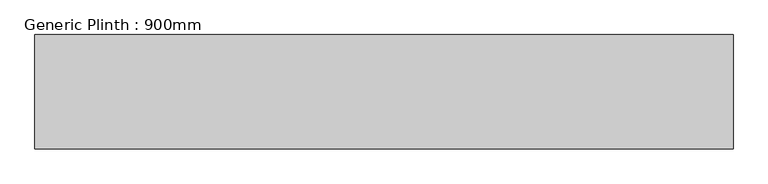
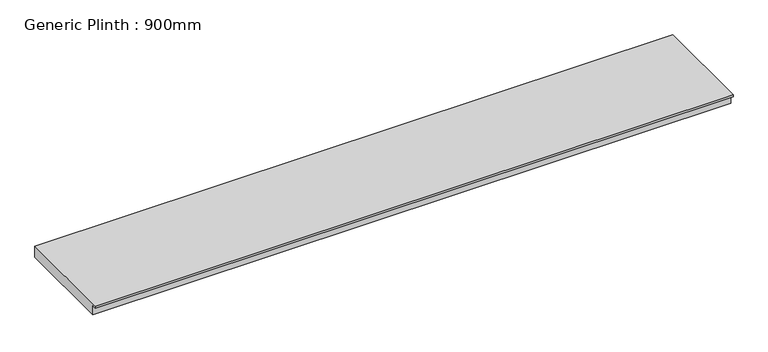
"""IFC4 building model written with IfcOpenShell, lengths in millimetres: furniture geometry, Generic Plinth : 900mm."""

from ifc_helpers import new_model, si_unit, frame, origin, place, context, project, spatial, polyline, outline, extrude, source, transform, mapped, element, save


def generic_plinth_900mm_f33d2354(model_context):
    return source(origin(), model_context, "Body", "SweptSolid", [
        extrude(outline(polyline([(-900.0, 81.0), (-900.0, 100.0), (0.0, 100.0), (0.0, 0.0), (-865.0, 0.0), (-865.0, 81.0), (-900.0, 81.0)])), frame((-2731.2622951, 0.0, 0.0), z_axis=(1.0, 0.0, 0.0), x_axis=(0.0, 1.0, 0.0)), (0.0, 0.0, 1.0), 5500.0),
    ])


if __name__ == "__main__":
    model = new_model("IFC4")
    model_context = context("Model", 3, world=origin())
    ifc_project = project(units=[si_unit("LENGTHUNIT", "METRE", prefix="MILLI")], contexts=[model_context])
    site = spatial("IfcSite", under=ifc_project)
    building = spatial("IfcBuilding", under=site)
    placement = place(None, origin())
    generic_plinth_900mm_shape = generic_plinth_900mm_f33d2354(model_context)
    element("IfcFurniture", 1, ObjectType="Generic Plinth : 900mm", at=placement, inside=building, context=model_context, shape_type="MappedRepresentation", body=[
        mapped(generic_plinth_900mm_shape, transform((0.0, 0.0, 0.0), x_axis=(1.0, 0.0, 0.0), y_axis=(0.0, 1.0, 0.0), z_axis=(0.0, 0.0, 1.0))),
    ])
    save(model, "model.ifc")
